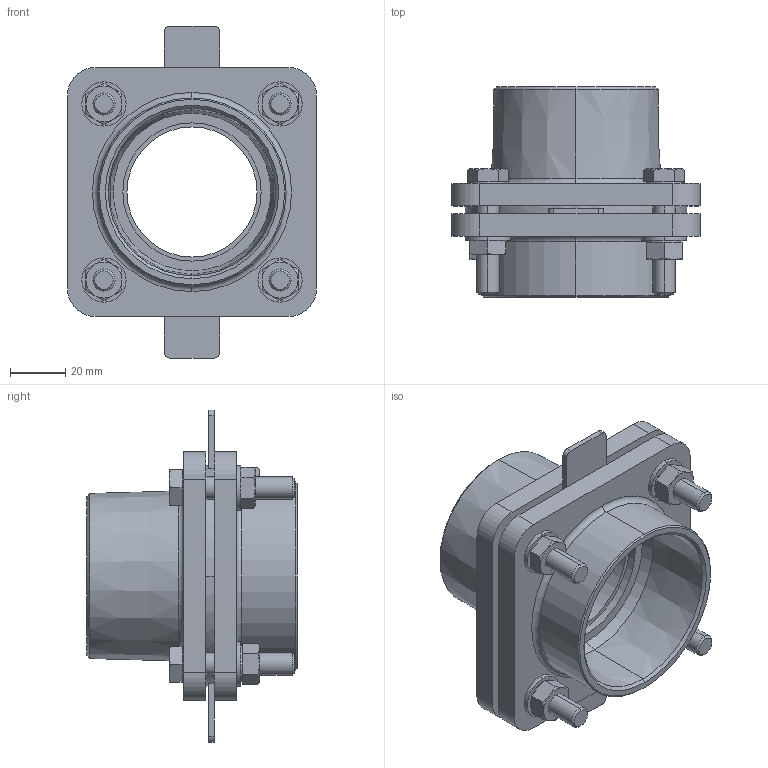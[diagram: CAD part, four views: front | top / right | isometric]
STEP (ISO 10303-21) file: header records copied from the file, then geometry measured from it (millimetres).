
FILE_DESCRIPTION (( 'STEP AP214' ), '1' );
FILE_NAME ('KP_F16-63MF.STEP', '2014-01-20T15:15:36', ( 'robinj' ), ( 'Microsoft' ), 'SwSTEP 2.0', 'SolidWorks 2014', '' );
FILE_SCHEMA (( 'AUTOMOTIVE_DESIGN' ));
Length unit declared in the file: millimetre
Products named in the file (1): KP_F16-63MF
Bounding box: 90 x 76 x 120 mm (x, y, z)
Volume: 170951.9 mm3; surface area: 56243.9 mm2
Topology: 1 solids, 1 shells, 295 faces, 656 edges, 392 vertices
Faces by surface type: plane 141, cylinder 74, cone 68, torus 12
Entity records: 9353 total; most frequent: CARTESIAN_POINT 1888, DIRECTION 1428, ORIENTED_EDGE 1312, EDGE_CURVE 656, AXIS2_PLACEMENT_3D 572, VERTEX_POINT 392, EDGE_LOOP 334, FACE_OUTER_BOUND 295
